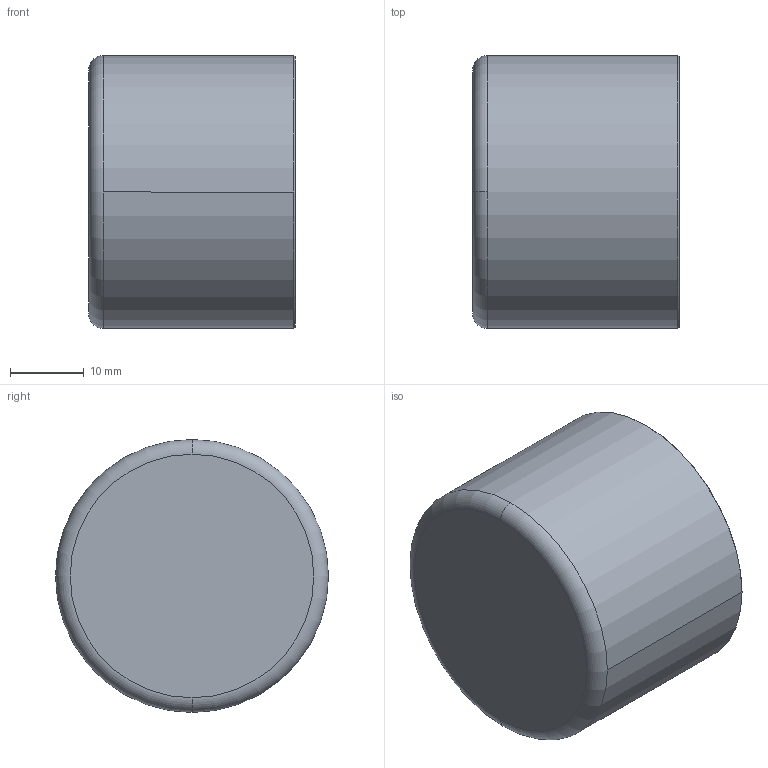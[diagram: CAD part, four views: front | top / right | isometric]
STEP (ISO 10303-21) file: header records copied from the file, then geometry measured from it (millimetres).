
FILE_DESCRIPTION((''),'2;1');
FILE_NAME('C:\sanha_work\5130\f\530135.stp','2005-10-21T18:20:03',('Kris'),(''),'Autodesk Inventor 8','Autodesk Inventor 8','');
FILE_SCHEMA(('AUTOMOTIVE_DESIGN { 1 0 10303 214 1 1 1 1 }'));
Length unit declared in the file: millimetre
Products named in the file (1): 530135
Bounding box: 28 x 37 x 37 mm (x, y, z)
Volume: 4050.2 mm3; surface area: 8198.2 mm2
Topology: 1 solids, 1 shells, 15 faces, 34 edges, 22 vertices
Faces by surface type: torus 4, cylinder 4, cone 4, plane 3
Entity records: 461 total; most frequent: DIRECTION 92, CARTESIAN_POINT 72, ORIENTED_EDGE 68, AXIS2_PLACEMENT_3D 42, EDGE_CURVE 34, CIRCLE 26, VERTEX_POINT 22, EDGE_LOOP 16
